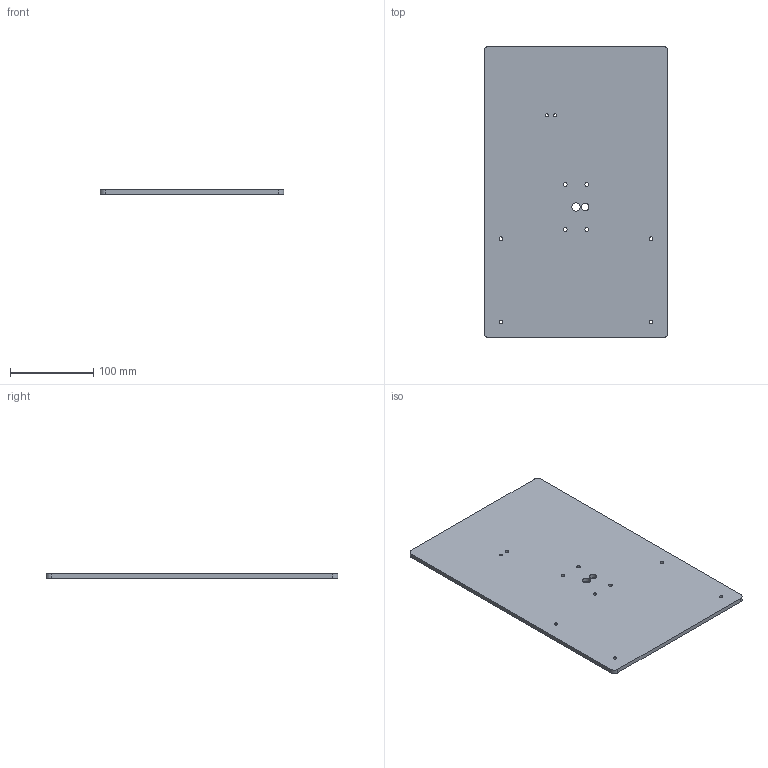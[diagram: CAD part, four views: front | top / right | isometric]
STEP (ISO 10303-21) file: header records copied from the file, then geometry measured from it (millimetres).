
FILE_DESCRIPTION(('FreeCAD Model'),'2;1');
FILE_NAME('Open CASCADE Shape Model','2026-11-06T11:24:15',('FreeCAD'),( 'FreeCAD'),'Open CASCADE STEP processor 7.8','FreeCAD','Unknown');
FILE_SCHEMA(('AUTOMOTIVE_DESIGN { 1 0 10303 214 1 1 1 1 }'));
Length unit declared in the file: millimetre
Products named in the file (1): Open CASCADE STEP translator 7.8 1
Bounding box: 220 x 350 x 5 mm (x, y, z)
Volume: 383396.7 mm3; surface area: 159984.2 mm2
Topology: 1 solids, 1 shells, 22 faces, 60 edges, 40 vertices
Faces by surface type: cylinder 16, plane 6
Full cylindrical faces by diameter (mm): 3.6 x2, 4.5 x8, 9 x1, 10 x1
Entity records: 774 total; most frequent: DIRECTION 138, CARTESIAN_POINT 123, ORIENTED_EDGE 120, EDGE_CURVE 60, AXIS2_PLACEMENT_3D 55, FACE_BOUND 46, EDGE_LOOP 46, VERTEX_POINT 40
